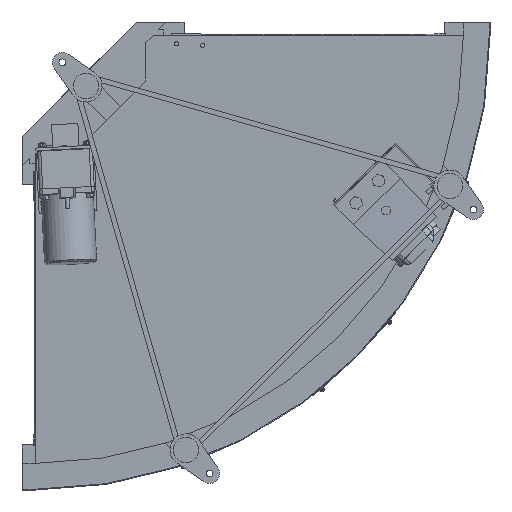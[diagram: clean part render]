
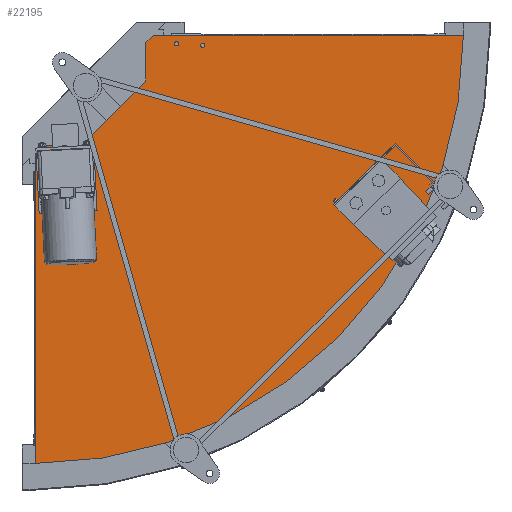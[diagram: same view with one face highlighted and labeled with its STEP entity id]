
A CAD part, front view. The second image highlights one B-rep face of the part: STEP entity #22195.
In plain terms, the highlighted planar face has unit normal (0, -1, 0).
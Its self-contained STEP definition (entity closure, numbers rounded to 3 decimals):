
#146 = LINE ( 'NONE', #30472, #4728 ) ;
#384 = LINE ( 'NONE', #34103, #15119 ) ;
#1030 = DIRECTION ( 'NONE',  ( 0., 1., 0. ) ) ;
#1147 = VERTEX_POINT ( 'NONE', #37062 ) ;
#1552 = VERTEX_POINT ( 'NONE', #33833 ) ;
#2007 = DIRECTION ( 'NONE',  ( 0., -1., 0. ) ) ;
#2083 = CIRCLE ( 'NONE', #13416, 4. ) ;
#2311 = DIRECTION ( 'NONE',  ( 0., -1., 0. ) ) ;
#2763 = VERTEX_POINT ( 'NONE', #36565 ) ;
#2807 = ORIENTED_EDGE ( 'NONE', *, *, #15001, .T. ) ;
#2877 = CARTESIAN_POINT ( 'NONE',  ( 0., -152.7, -224.1 ) ) ;
#2943 = FACE_BOUND ( 'NONE', #10595, .T. ) ;
#3051 = DIRECTION ( 'NONE',  ( 0., 0., -1. ) ) ;
#3460 = VECTOR ( 'NONE', #6553, 1000. ) ;
#3666 = VERTEX_POINT ( 'NONE', #13979 ) ;
#4192 = DIRECTION ( 'NONE',  ( 0., -1., 0. ) ) ;
#4728 = VECTOR ( 'NONE', #16014, 1000. ) ;
#4785 = VERTEX_POINT ( 'NONE', #27656 ) ;
#5501 = ORIENTED_EDGE ( 'NONE', *, *, #14517, .F. ) ;
#6543 = AXIS2_PLACEMENT_3D ( 'NONE', #17763, #35049, #23656 ) ;
#6553 = DIRECTION ( 'NONE',  ( 0., 0., 1. ) ) ;
#6628 = FACE_BOUND ( 'NONE', #37232, .T. ) ;
#6893 = DIRECTION ( 'NONE',  ( 0., -1., 0. ) ) ;
#7026 = DIRECTION ( 'NONE',  ( 0., 0., 1. ) ) ;
#7065 = DIRECTION ( 'NONE',  ( 0., -1., 0. ) ) ;
#7078 = LINE ( 'NONE', #31667, #18130 ) ;
#7719 = VERTEX_POINT ( 'NONE', #14124 ) ;
#7964 = DIRECTION ( 'NONE',  ( 0., 0., 1. ) ) ;
#8023 = LINE ( 'NONE', #16103, #20414 ) ;
#8156 = EDGE_CURVE ( 'NONE', #18554, #35707, #26728, .T. ) ;
#8243 = CARTESIAN_POINT ( 'NONE',  ( 0., -152.7, -812.5 ) ) ;
#8588 = AXIS2_PLACEMENT_3D ( 'NONE', #18963, #13464, #25100 ) ;
#8741 = AXIS2_PLACEMENT_3D ( 'NONE', #24619, #7065, #36006 ) ;
#8808 = ORIENTED_EDGE ( 'NONE', *, *, #22424, .T. ) ;
#9290 = EDGE_CURVE ( 'NONE', #4785, #2763, #13765, .T. ) ;
#9399 = CARTESIAN_POINT ( 'NONE',  ( 0., -152.7, -812.5 ) ) ;
#9462 = VERTEX_POINT ( 'NONE', #30783 ) ;
#9735 = CARTESIAN_POINT ( 'NONE',  ( 16.5, -152.7, -268. ) ) ;
#9884 = EDGE_CURVE ( 'NONE', #16125, #7719, #23389, .T. ) ;
#10307 = VERTEX_POINT ( 'NONE', #2877 ) ;
#10315 = ORIENTED_EDGE ( 'NONE', *, *, #34304, .F. ) ;
#10595 = EDGE_LOOP ( 'NONE', ( #5501, #20579 ) ) ;
#10714 = EDGE_CURVE ( 'NONE', #32519, #3666, #384, .T. ) ;
#11025 = EDGE_CURVE ( 'NONE', #9462, #33952, #18723, .T. ) ;
#11401 = CIRCLE ( 'NONE', #15907, 4. ) ;
#11427 = VERTEX_POINT ( 'NONE', #17804 ) ;
#11501 = DIRECTION ( 'NONE',  ( 0., 0., -1. ) ) ;
#12033 = ORIENTED_EDGE ( 'NONE', *, *, #25858, .F. ) ;
#13416 = AXIS2_PLACEMENT_3D ( 'NONE', #31600, #16756, #11501 ) ;
#13464 = DIRECTION ( 'NONE',  ( 0., 1., 0. ) ) ;
#13619 = DIRECTION ( 'NONE',  ( -0.707, 0., -0.707 ) ) ;
#13765 = CIRCLE ( 'NONE', #17053, 4. ) ;
#13979 = CARTESIAN_POINT ( 'NONE',  ( 210., -152.7, -86.985 ) ) ;
#14124 = CARTESIAN_POINT ( 'NONE',  ( 317.937, -152.7, -23. ) ) ;
#14303 = ORIENTED_EDGE ( 'NONE', *, *, #26373, .F. ) ;
#14367 = ORIENTED_EDGE ( 'NONE', *, *, #33549, .F. ) ;
#14517 = EDGE_CURVE ( 'NONE', #33952, #9462, #2083, .T. ) ;
#14909 = FACE_OUTER_BOUND ( 'NONE', #29107, .T. ) ;
#15001 = EDGE_CURVE ( 'NONE', #18554, #26834, #8023, .T. ) ;
#15119 = VECTOR ( 'NONE', #34357, 1000. ) ;
#15396 = ORIENTED_EDGE ( 'NONE', *, *, #9884, .F. ) ;
#15546 = CIRCLE ( 'NONE', #31358, 4. ) ;
#15792 = ORIENTED_EDGE ( 'NONE', *, *, #15916, .F. ) ;
#15838 = DIRECTION ( 'NONE',  ( 0., 0., 1. ) ) ;
#15907 = AXIS2_PLACEMENT_3D ( 'NONE', #19569, #2007, #19066 ) ;
#15916 = EDGE_CURVE ( 'NONE', #3666, #26834, #146, .T. ) ;
#16014 = DIRECTION ( 'NONE',  ( 0., 0., 1. ) ) ;
#16044 = ORIENTED_EDGE ( 'NONE', *, *, #9290, .F. ) ;
#16103 = CARTESIAN_POINT ( 'NONE',  ( 112.05, -152.7, -112.05 ) ) ;
#16125 = VERTEX_POINT ( 'NONE', #34387 ) ;
#16154 = VECTOR ( 'NONE', #26383, 1000. ) ;
#16756 = DIRECTION ( 'NONE',  ( 0., -1., 0. ) ) ;
#17053 = AXIS2_PLACEMENT_3D ( 'NONE', #31678, #2311, #7964 ) ;
#17143 = ORIENTED_EDGE ( 'NONE', *, *, #26690, .F. ) ;
#17763 = CARTESIAN_POINT ( 'NONE',  ( 16.5, -152.7, -268. ) ) ;
#17804 = CARTESIAN_POINT ( 'NONE',  ( 16.5, -152.7, -264. ) ) ;
#18130 = VECTOR ( 'NONE', #13619, 1000. ) ;
#18554 = VERTEX_POINT ( 'NONE', #31377 ) ;
#18723 = CIRCLE ( 'NONE', #8741, 4. ) ;
#18963 = CARTESIAN_POINT ( 'NONE',  ( 0., -152.7, 0. ) ) ;
#19066 = DIRECTION ( 'NONE',  ( 0., 0., -1. ) ) ;
#19136 = EDGE_LOOP ( 'NONE', ( #14303, #16044 ) ) ;
#19569 = CARTESIAN_POINT ( 'NONE',  ( 317.937, -152.7, -19. ) ) ;
#20414 = VECTOR ( 'NONE', #36544, 1000. ) ;
#20579 = ORIENTED_EDGE ( 'NONE', *, *, #11025, .F. ) ;
#21216 = CARTESIAN_POINT ( 'NONE',  ( 210., -152.7, -14.1 ) ) ;
#21269 = AXIS2_PLACEMENT_3D ( 'NONE', #23576, #26810, #3051 ) ;
#21639 = CARTESIAN_POINT ( 'NONE',  ( 86.985, -152.7, -210. ) ) ;
#21645 = AXIS2_PLACEMENT_3D ( 'NONE', #27611, #1030, #15838 ) ;
#21876 = CARTESIAN_POINT ( 'NONE',  ( 19., -152.7, -317.937 ) ) ;
#22034 = CARTESIAN_POINT ( 'NONE',  ( 812.5, -152.7, 0. ) ) ;
#22072 = CIRCLE ( 'NONE', #8588, 812.5 ) ;
#22195 = ADVANCED_FACE ( 'NONE', ( #6628, #25425, #32779, #2943, #14909 ), #27115, .F. ) ;
#22424 = EDGE_CURVE ( 'NONE', #1552, #10307, #7078, .T. ) ;
#22768 = CARTESIAN_POINT ( 'NONE',  ( 224., -152.7, 0. ) ) ;
#23389 = CIRCLE ( 'NONE', #21269, 4. ) ;
#23576 = CARTESIAN_POINT ( 'NONE',  ( 317.937, -152.7, -19. ) ) ;
#23656 = DIRECTION ( 'NONE',  ( 0., 0., 1. ) ) ;
#23895 = ORIENTED_EDGE ( 'NONE', *, *, #26340, .F. ) ;
#23957 = VECTOR ( 'NONE', #31376, 1000. ) ;
#24619 = CARTESIAN_POINT ( 'NONE',  ( 268., -152.7, -16.5 ) ) ;
#24709 = DIRECTION ( 'NONE',  ( 0., 0., 1. ) ) ;
#25100 = DIRECTION ( 'NONE',  ( 0., 0., 1. ) ) ;
#25425 = FACE_BOUND ( 'NONE', #19136, .T. ) ;
#25858 = EDGE_CURVE ( 'NONE', #7719, #16125, #11401, .T. ) ;
#26181 = ORIENTED_EDGE ( 'NONE', *, *, #10714, .F. ) ;
#26340 = EDGE_CURVE ( 'NONE', #1147, #11427, #15546, .T. ) ;
#26373 = EDGE_CURVE ( 'NONE', #2763, #4785, #37964, .T. ) ;
#26383 = DIRECTION ( 'NONE',  ( 1., 0., 0. ) ) ;
#26690 = EDGE_CURVE ( 'NONE', #11427, #1147, #27872, .T. ) ;
#26728 = LINE ( 'NONE', #22768, #23957 ) ;
#26810 = DIRECTION ( 'NONE',  ( 0., -1., 0. ) ) ;
#26834 = VERTEX_POINT ( 'NONE', #21216 ) ;
#27115 = PLANE ( 'NONE',  #21645 ) ;
#27611 = CARTESIAN_POINT ( 'NONE',  ( 0., -152.7, 0. ) ) ;
#27656 = CARTESIAN_POINT ( 'NONE',  ( 19., -152.7, -313.937 ) ) ;
#27872 = CIRCLE ( 'NONE', #6543, 4. ) ;
#28237 = EDGE_LOOP ( 'NONE', ( #23895, #17143 ) ) ;
#28574 = ORIENTED_EDGE ( 'NONE', *, *, #34516, .F. ) ;
#28594 = VERTEX_POINT ( 'NONE', #8243 ) ;
#29107 = EDGE_LOOP ( 'NONE', ( #2807, #15792, #26181, #28574, #8808, #14367, #10315, #30487 ) ) ;
#29411 = LINE ( 'NONE', #32123, #16154 ) ;
#30472 = CARTESIAN_POINT ( 'NONE',  ( 210., -152.7, -14.1 ) ) ;
#30487 = ORIENTED_EDGE ( 'NONE', *, *, #8156, .F. ) ;
#30783 = CARTESIAN_POINT ( 'NONE',  ( 268., -152.7, -12.5 ) ) ;
#31358 = AXIS2_PLACEMENT_3D ( 'NONE', #9735, #4192, #24709 ) ;
#31376 = DIRECTION ( 'NONE',  ( 1., 0., 0. ) ) ;
#31377 = CARTESIAN_POINT ( 'NONE',  ( 224.1, -152.7, 0. ) ) ;
#31600 = CARTESIAN_POINT ( 'NONE',  ( 268., -152.7, -16.5 ) ) ;
#31667 = CARTESIAN_POINT ( 'NONE',  ( 112.05, -152.7, -112.05 ) ) ;
#31678 = CARTESIAN_POINT ( 'NONE',  ( 19., -152.7, -317.937 ) ) ;
#32123 = CARTESIAN_POINT ( 'NONE',  ( 86.985, -152.7, -210. ) ) ;
#32519 = VERTEX_POINT ( 'NONE', #21639 ) ;
#32779 = FACE_BOUND ( 'NONE', #28237, .T. ) ;
#33273 = LINE ( 'NONE', #9399, #3460 ) ;
#33549 = EDGE_CURVE ( 'NONE', #28594, #10307, #33273, .T. ) ;
#33833 = CARTESIAN_POINT ( 'NONE',  ( 14.1, -152.7, -210. ) ) ;
#33952 = VERTEX_POINT ( 'NONE', #34869 ) ;
#34103 = CARTESIAN_POINT ( 'NONE',  ( 210., -152.7, -86.985 ) ) ;
#34304 = EDGE_CURVE ( 'NONE', #35707, #28594, #22072, .T. ) ;
#34357 = DIRECTION ( 'NONE',  ( 0.707, 0., 0.707 ) ) ;
#34387 = CARTESIAN_POINT ( 'NONE',  ( 317.937, -152.7, -15. ) ) ;
#34516 = EDGE_CURVE ( 'NONE', #1552, #32519, #29411, .T. ) ;
#34869 = CARTESIAN_POINT ( 'NONE',  ( 268., -152.7, -20.5 ) ) ;
#35049 = DIRECTION ( 'NONE',  ( 0., -1., 0. ) ) ;
#35707 = VERTEX_POINT ( 'NONE', #22034 ) ;
#36006 = DIRECTION ( 'NONE',  ( 0., 0., -1. ) ) ;
#36544 = DIRECTION ( 'NONE',  ( -0.707, 0., -0.707 ) ) ;
#36565 = CARTESIAN_POINT ( 'NONE',  ( 19., -152.7, -321.937 ) ) ;
#36731 = AXIS2_PLACEMENT_3D ( 'NONE', #21876, #6893, #7026 ) ;
#37062 = CARTESIAN_POINT ( 'NONE',  ( 16.5, -152.7, -272. ) ) ;
#37232 = EDGE_LOOP ( 'NONE', ( #12033, #15396 ) ) ;
#37964 = CIRCLE ( 'NONE', #36731, 4. ) ;
